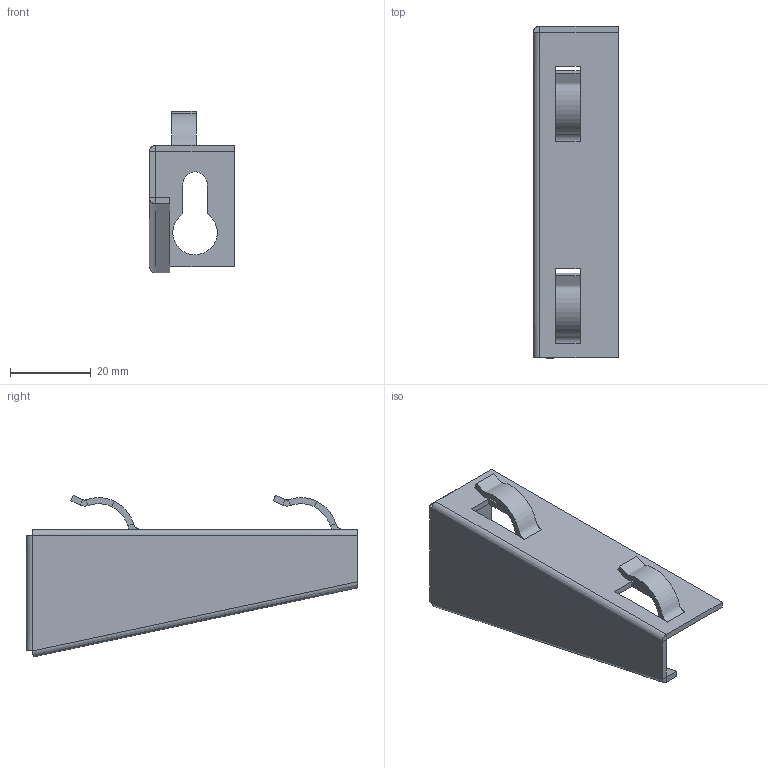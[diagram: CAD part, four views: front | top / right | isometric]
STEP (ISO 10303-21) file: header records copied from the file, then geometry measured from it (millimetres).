
FILE_DESCRIPTION(/* description */ (''),/* implementation_level */ '2;1');
FILE_NAME(/* name */ 'NZM050',/* time_stamp */ '2012-11-29T22:24:06+01:00',/* author */ (''),/* organization */ (''),/* preprocessor_version */ 'ST-DEVELOPER v10',/* originating_system */ '',/* authorisation */ '');
FILE_SCHEMA (('AUTOMOTIVE_DESIGN_CC2'));
Length unit declared in the file: millimetre
Products named in the file (1): 1
Bounding box: 21 x 82 x 39.97 mm (x, y, z)
Surface area: 9084.1 mm2 (no closed solid volume)
Topology: 0 solids, 67 shells, 67 faces, 320 edges, 320 vertices
Faces by surface type: bspline 46, plane 21
Entity records: 4764 total; most frequent: CARTESIAN_POINT 2663, ORIENTED_EDGE 320, EDGE_CURVE 320, VERTEX_POINT 320, B_SPLINE_CURVE_WITH_KNOTS 154, EDGE_LOOP 73, COLOUR_RGB 67, FILL_AREA_STYLE_COLOUR 67
